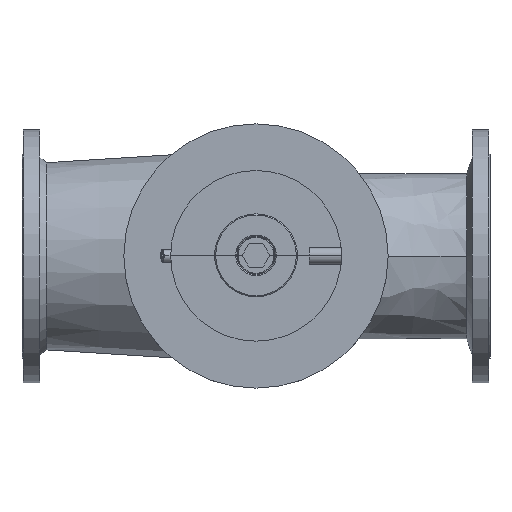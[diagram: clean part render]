
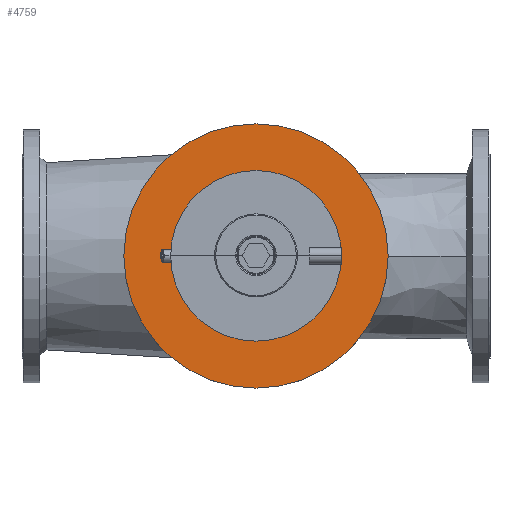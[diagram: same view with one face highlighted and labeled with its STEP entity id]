
A CAD part, top view. The second image highlights one B-rep face of the part: STEP entity #4759.
In plain terms, the highlighted planar face has unit normal (0, 0, 1).
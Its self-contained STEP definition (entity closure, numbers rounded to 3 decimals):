
#849=FACE_BOUND('',#1296,.T.);
#931=FACE_OUTER_BOUND('',#1295,.T.);
#1295=EDGE_LOOP('',(#3364,#3365));
#1296=EDGE_LOOP('',(#3366,#3367));
#1664=CIRCLE('',#5235,240.);
#1665=CIRCLE('',#5236,240.);
#1666=CIRCLE('',#5237,72.5);
#1667=CIRCLE('',#5238,72.5);
#2080=VERTEX_POINT('',#7721);
#2081=VERTEX_POINT('',#7722);
#2082=VERTEX_POINT('',#7725);
#2083=VERTEX_POINT('',#7726);
#2514=EDGE_CURVE('',#2080,#2081,#1664,.T.);
#2515=EDGE_CURVE('',#2081,#2080,#1665,.T.);
#2516=EDGE_CURVE('',#2082,#2083,#1666,.T.);
#2517=EDGE_CURVE('',#2083,#2082,#1667,.T.);
#3364=ORIENTED_EDGE('',*,*,#2514,.T.);
#3365=ORIENTED_EDGE('',*,*,#2515,.T.);
#3366=ORIENTED_EDGE('',*,*,#2516,.T.);
#3367=ORIENTED_EDGE('',*,*,#2517,.T.);
#4288=PLANE('',#5234);
#4759=ADVANCED_FACE('',(#931,#849),#4288,.T.);
#5234=AXIS2_PLACEMENT_3D('',#7720,#6181,#6182);
#5235=AXIS2_PLACEMENT_3D('',#7723,#6183,#6184);
#5236=AXIS2_PLACEMENT_3D('',#7724,#6185,#6186);
#5237=AXIS2_PLACEMENT_3D('',#7727,#6187,#6188);
#5238=AXIS2_PLACEMENT_3D('',#7728,#6189,#6190);
#6181=DIRECTION('center_axis',(0.,0.,1.));
#6182=DIRECTION('ref_axis',(0.,1.,0.));
#6183=DIRECTION('center_axis',(0.,0.,1.));
#6184=DIRECTION('ref_axis',(1.,0.,0.));
#6185=DIRECTION('center_axis',(0.,0.,1.));
#6186=DIRECTION('ref_axis',(1.,0.,0.));
#6187=DIRECTION('center_axis',(0.,0.,-1.));
#6188=DIRECTION('ref_axis',(1.,0.,0.));
#6189=DIRECTION('center_axis',(0.,0.,-1.));
#6190=DIRECTION('ref_axis',(1.,0.,0.));
#7720=CARTESIAN_POINT('Origin',(240.,0.,338.));
#7721=CARTESIAN_POINT('',(-240.,0.,338.));
#7722=CARTESIAN_POINT('',(240.,0.,338.));
#7723=CARTESIAN_POINT('Origin',(0.,0.,338.));
#7724=CARTESIAN_POINT('Origin',(0.,0.,338.));
#7725=CARTESIAN_POINT('',(-72.5,0.,338.));
#7726=CARTESIAN_POINT('',(72.5,0.,338.));
#7727=CARTESIAN_POINT('Origin',(0.,0.,338.));
#7728=CARTESIAN_POINT('Origin',(0.,0.,338.));
